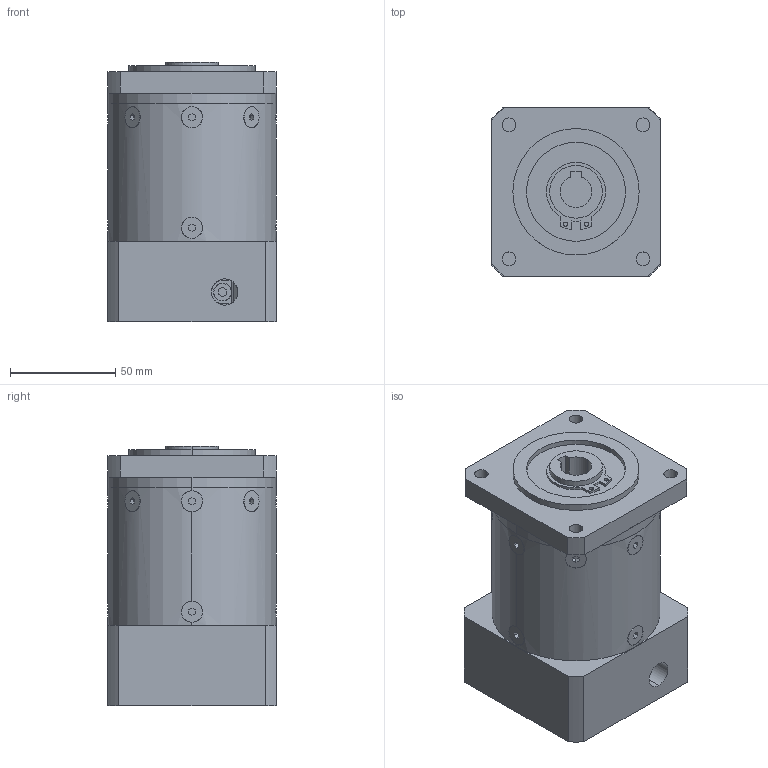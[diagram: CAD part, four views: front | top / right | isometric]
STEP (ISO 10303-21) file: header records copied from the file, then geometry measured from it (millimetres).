
FILE_DESCRIPTION (( 'STEP AP203' ), '1' );
FILE_NAME ('PBF080-L2-19-70-90.STEP', '2022-07-21T09:06:28', ( 'Windows User' ), ( 'P R C' ), 'SwSTEP 2.0', 'SolidWorks 2016', '' );
FILE_SCHEMA (( 'CONFIG_CONTROL_DESIGN' ));
Length unit declared in the file: millimetre
Products named in the file (7): PBF080 蟀諉啣-梓袧; PBF080 薊粣ん_D7-19 梓袧; PBF080内齿圈-孔输出-B版_二级内齿圈; PBF080奻屳唳-謂怀堤15; 囀鞠褒蹟佪-M5℅20; 粣創-6006 30x55x13; PBF080-L2-19-70-90
Assembly tree (6 placements, depth 2):
  PBF080-L2-19-70-90
    PBF080 蟀諉啣-梓袧
    PBF080 薊粣ん_D7-19 梓袧
    PBF080内齿圈-孔输出-B版_二级内齿圈
    PBF080奻屳唳-謂怀堤15
    囀鞠褒蹟佪-M5℅20
    粣創-6006 30x55x13
Bounding box: 80.1 x 80.1 x 123 mm (x, y, z)
Volume: 579208.9 mm3; surface area: 118907.9 mm2
Topology: 6 solids, 6 shells, 1071 faces, 2911 edges, 1925 vertices
Faces by surface type: plane 563, cylinder 188, bspline 164, sphere 88, torus 48, cone 20
Entity records: 45837 total; most frequent: CARTESIAN_POINT 19344, ORIENTED_EDGE 5790, DIRECTION 4661, EDGE_CURVE 2895, VERTEX_POINT 1925, AXIS2_PLACEMENT_3D 1598, VECTOR 1465, LINE 1465
